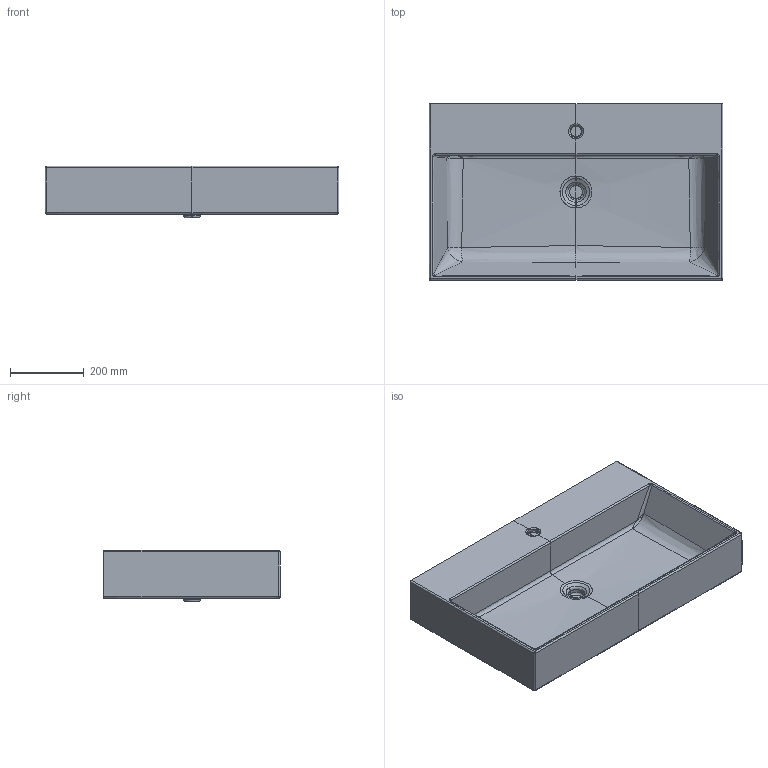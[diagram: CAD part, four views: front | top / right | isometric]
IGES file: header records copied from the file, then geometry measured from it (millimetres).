
Start section: START RECORD GO HERE.
Global section: file name: art 6101 lavabo plus 80x48.igs; native system: IBM CATIA IGES - CATIA Version 5 Release 17 ; preprocessor: CATIA Version 5 Release 17 ; author: Luca; organization: PC-Luca; date: 20131019.152341; units: millimetre
Bounding box: 800 x 480 x 140 mm (x, y, z)
Surface area: 915367.9 mm2 (no closed solid volume)
Topology: 0 solids, 0 shells, 82 faces, 348 edges, 346 vertices
Faces by surface type: bspline 82
